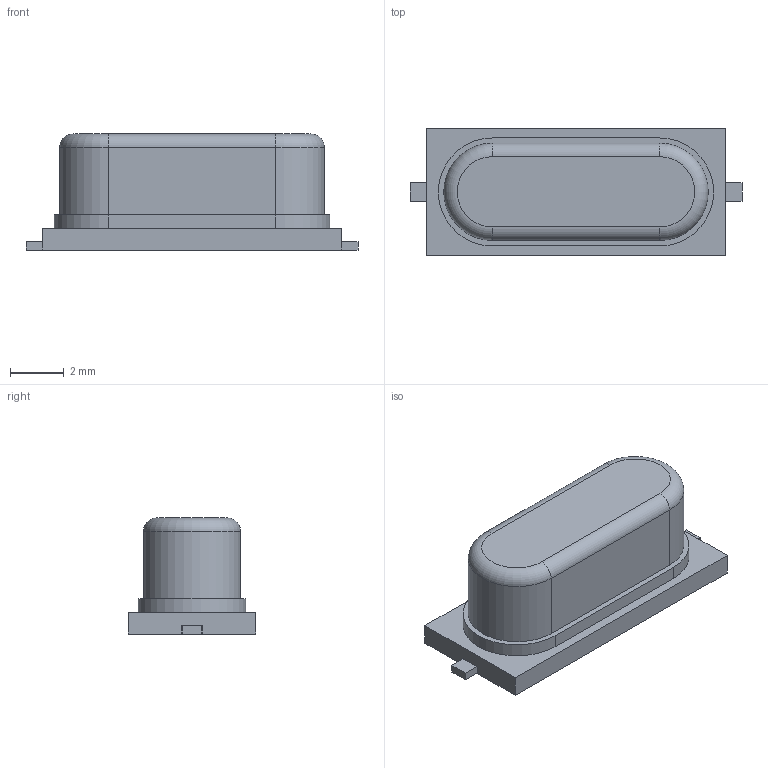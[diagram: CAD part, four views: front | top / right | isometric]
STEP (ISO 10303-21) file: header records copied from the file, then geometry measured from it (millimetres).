
FILE_DESCRIPTION (( 'STEP AP214' ), '1' );
FILE_NAME ( 'XTAL1110X473X430D1230L370X70.STEP', '2021-10-06T06:48:59', ( '' ), ( '' ), '', '©2017 PCB Libraries, Inc.', '' );
FILE_SCHEMA (( 'AUTOMOTIVE_DESIGN' ));
Length unit declared in the file: millimetre
Products named in the file (1): XTAL1110X473X430D1230L370X70
Bounding box: 12.3 x 4.73 x 4.3 mm (x, y, z)
Volume: 156.8 mm3; surface area: 228.2 mm2
Topology: 3 solids, 3 shells, 40 faces, 92 edges, 60 vertices
Faces by surface type: plane 32, cylinder 6, torus 2
Entity records: 1293 total; most frequent: CARTESIAN_POINT 193, DIRECTION 188, ORIENTED_EDGE 184, EDGE_CURVE 92, VECTOR 78, LINE 78, VERTEX_POINT 60, AXIS2_PLACEMENT_3D 55
